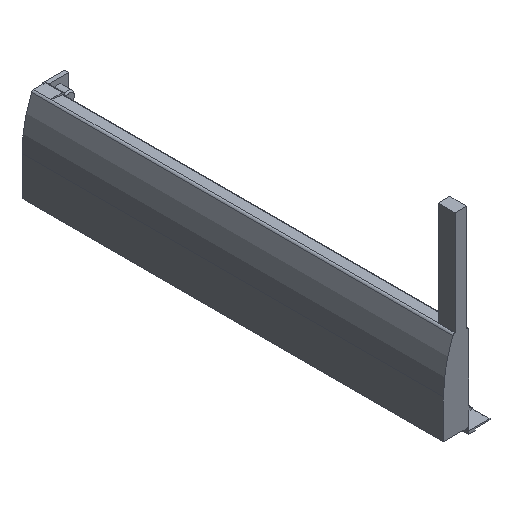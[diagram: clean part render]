
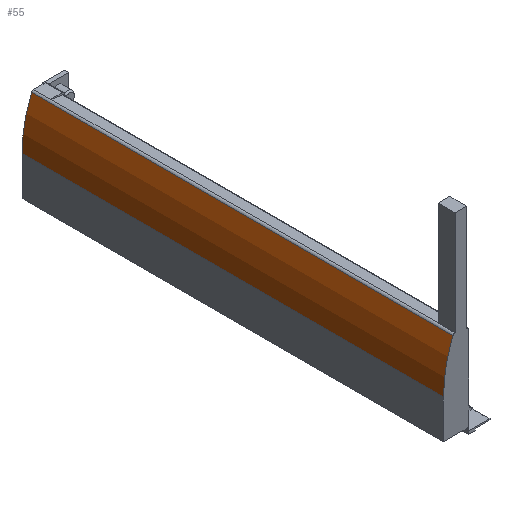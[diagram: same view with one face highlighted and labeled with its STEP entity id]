
A CAD part, isometric view. The second image highlights one B-rep face of the part: STEP entity #55.
In plain terms, the highlighted cylindrical face has radius 120.6 mm (diameter 241.2 mm), a partial arc.
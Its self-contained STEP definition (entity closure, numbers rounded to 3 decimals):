
#55 = ADVANCED_FACE ( 'NONE', ( #1997 ), #1996, .T. ) ;
#183 = AXIS2_PLACEMENT_3D ( 'NONE', #1231, #1232, #1233 ) ;
#200 = AXIS2_PLACEMENT_3D ( 'NONE', #1028, #1029, #1030 ) ;
#282 = AXIS2_PLACEMENT_3D ( 'NONE', #573, #574, #575 ) ;
#436 = EDGE_CURVE ( 'NONE', #2757, #2727, #1508, .T. ) ;
#447 = EDGE_CURVE ( 'NONE', #2737, #2727, #1525, .T. ) ;
#515 = EDGE_CURVE ( 'NONE', #2722, #2757, #1649, .T. ) ;
#529 = EDGE_CURVE ( 'NONE', #2737, #2722, #1676, .T. ) ;
#573 = CARTESIAN_POINT ( 'NONE',  ( 118.3, 444.049, 23.168 ) ) ;
#574 = DIRECTION ( 'NONE',  ( 0., -1., 0. ) ) ;
#575 = DIRECTION ( 'NONE',  ( -1., 0., 0. ) ) ;
#1028 = CARTESIAN_POINT ( 'NONE',  ( 118.3, 0., 23.168 ) ) ;
#1029 = DIRECTION ( 'NONE',  ( 0., 1., 0. ) ) ;
#1030 = DIRECTION ( 'NONE',  ( -1., 0., 0. ) ) ;
#1053 = CARTESIAN_POINT ( 'NONE',  ( 6.648, 444.049, 68.756 ) ) ;
#1054 = DIRECTION ( 'NONE',  ( 0., -1., 0. ) ) ;
#1202 = CARTESIAN_POINT ( 'NONE',  ( -2.3, 444.049, 23.168 ) ) ;
#1203 = DIRECTION ( 'NONE',  ( 0., -1., 0. ) ) ;
#1231 = CARTESIAN_POINT ( 'NONE',  ( 118.3, 397., 23.168 ) ) ;
#1232 = DIRECTION ( 'NONE',  ( 0., -1., 0. ) ) ;
#1233 = DIRECTION ( 'NONE',  ( -1., 0., 0. ) ) ;
#1385 = CARTESIAN_POINT ( 'NONE',  ( -2.3, 397., 23.168 ) ) ;
#1390 = CARTESIAN_POINT ( 'NONE',  ( 6.648, 0., 68.756 ) ) ;
#1400 = CARTESIAN_POINT ( 'NONE',  ( 6.648, 397., 68.756 ) ) ;
#1420 = CARTESIAN_POINT ( 'NONE',  ( -2.3, 0., 23.168 ) ) ;
#1508 = CIRCLE ( 'NONE', #200, 120.6 ) ;
#1525 = LINE ( 'NONE', #1053, #1527 ) ;
#1527 = VECTOR ( 'NONE', #1054, 1000. ) ;
#1649 = LINE ( 'NONE', #1202, #1650 ) ;
#1650 = VECTOR ( 'NONE', #1203, 1000. ) ;
#1676 = CIRCLE ( 'NONE', #183, 120.6 ) ;
#1996 = CYLINDRICAL_SURFACE ( 'NONE', #282, 120.6 ) ;
#1997 = FACE_OUTER_BOUND ( 'NONE', #2108, .T. ) ;
#2108 = EDGE_LOOP ( 'NONE', ( #2313, #2312, #2311, #2310 ) ) ;
#2310 = ORIENTED_EDGE ( 'NONE', *, *, #515, .T. ) ;
#2311 = ORIENTED_EDGE ( 'NONE', *, *, #529, .T. ) ;
#2312 = ORIENTED_EDGE ( 'NONE', *, *, #447, .F. ) ;
#2313 = ORIENTED_EDGE ( 'NONE', *, *, #436, .T. ) ;
#2722 = VERTEX_POINT ( 'NONE', #1385 ) ;
#2727 = VERTEX_POINT ( 'NONE', #1390 ) ;
#2737 = VERTEX_POINT ( 'NONE', #1400 ) ;
#2757 = VERTEX_POINT ( 'NONE', #1420 ) ;
